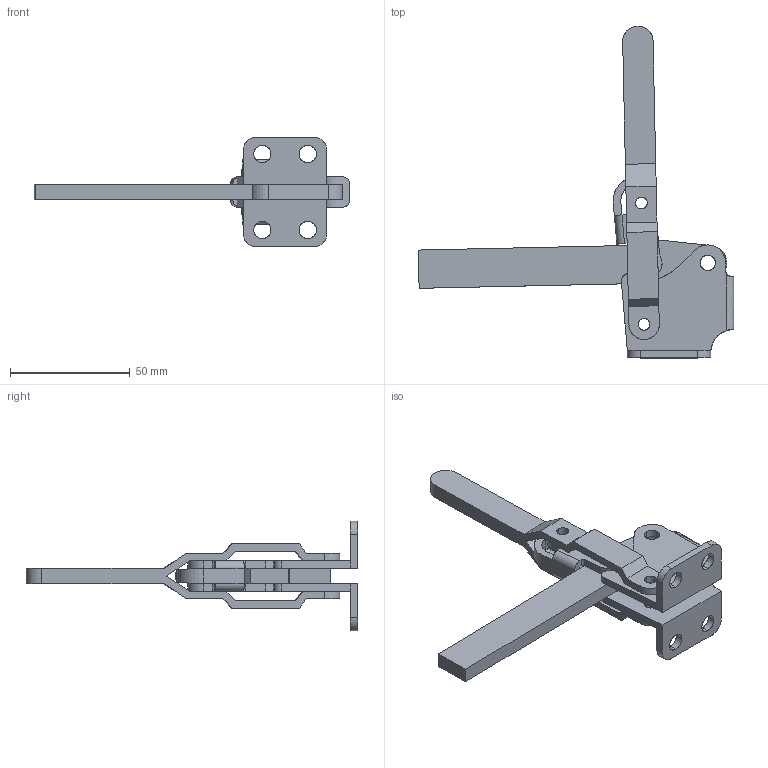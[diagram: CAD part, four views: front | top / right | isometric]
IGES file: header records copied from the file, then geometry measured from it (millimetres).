
Start section: Comment
Global section: file name: 12142.igs; native system:  By Spatial Corp.; preprocessor: XPlus PS/IGES 3.0; author: Author; organization: Title; date: 20050216.171034; units: inch
Bounding box: 131.95 x 138.84 x 46 mm (x, y, z)
Surface area: 26827.4 mm2 (no closed solid volume)
Topology: 0 solids, 0 shells, 155 faces, 866 edges, 866 vertices
Faces by surface type: extrusion 78, revolution 77
